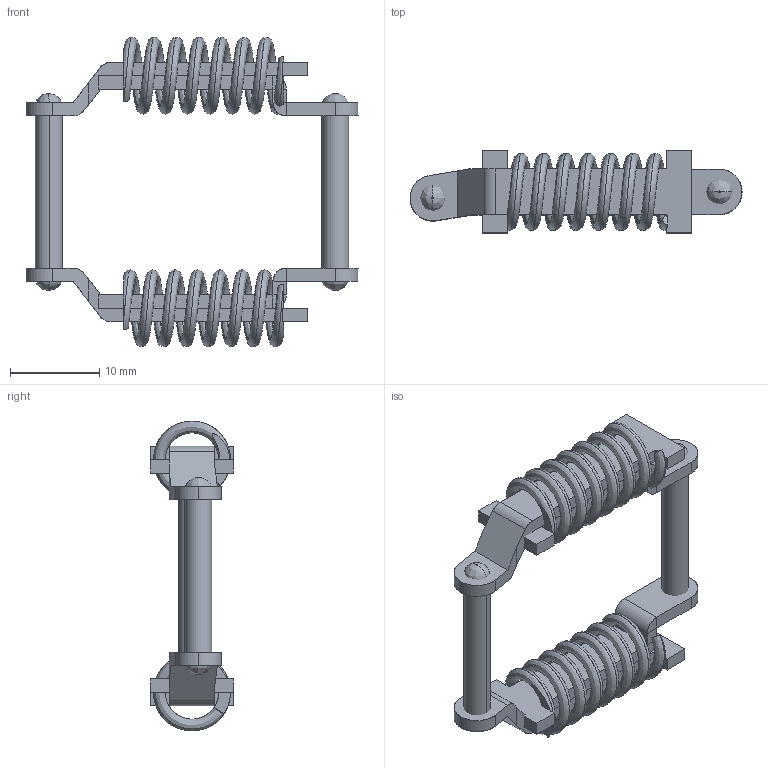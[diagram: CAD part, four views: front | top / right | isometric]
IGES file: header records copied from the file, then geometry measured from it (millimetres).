
Start section: SolidWorks IGES file using analytic representation for surfaces
Global section: file name: C:\Users\cbrechard\Desktop\GP 9\Assemblage ressort 09.IGS; native system: SolidWorks 2008; preprocessor: SolidWorks 2008; author: cbrechard; date: 130305.170739; units: millimetre
Bounding box: 37.1 x 9.2 x 34.6 mm (x, y, z)
Surface area: 3660.2 mm2 (no closed solid volume)
Topology: 0 solids, 0 shells, 124 faces, 1272 edges, 1272 vertices
Faces by surface type: bspline 96, revolution 28
